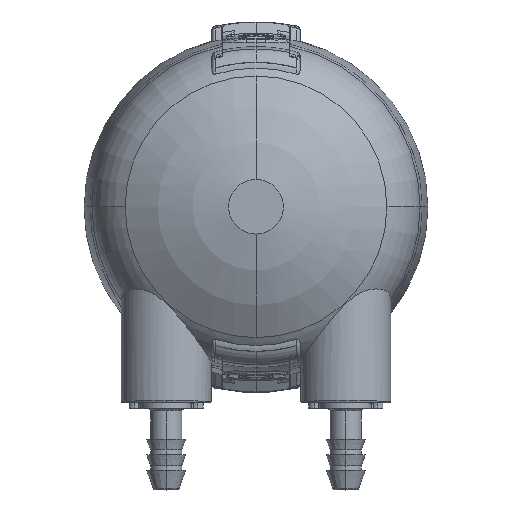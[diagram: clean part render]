
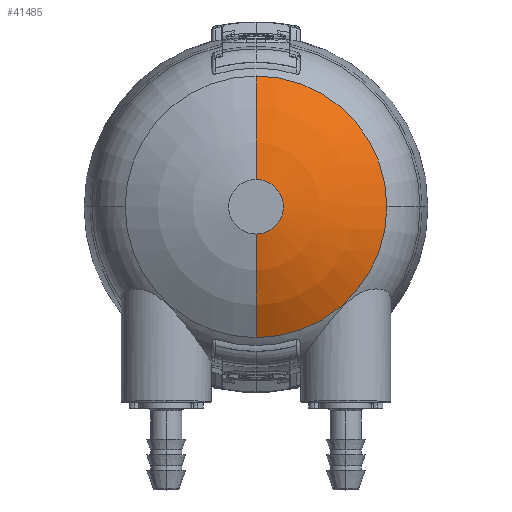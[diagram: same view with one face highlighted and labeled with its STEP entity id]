
A CAD part, top view. The second image highlights one B-rep face of the part: STEP entity #41485.
In plain terms, the highlighted spherical face has radius 61.112 mm.
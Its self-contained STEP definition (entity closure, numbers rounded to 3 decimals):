
#227 = CARTESIAN_POINT ( 'NONE',  ( 0., 0., 38. ) ) ;
#383 = CARTESIAN_POINT ( 'NONE',  ( 0., 0., -13.112 ) ) ;
#489 = DIRECTION ( 'NONE',  ( 0., 0., -1. ) ) ;
#2012 = CIRCLE ( 'NONE', #15556, 33.5 ) ;
#14881 = SPHERICAL_SURFACE ( 'NONE', #72997, 61.112 ) ;
#15556 = AXIS2_PLACEMENT_3D ( 'NONE', #227, #63929, #135825 ) ;
#15560 = DIRECTION ( 'NONE',  ( 0., 0., -1. ) ) ;
#20245 = VERTEX_POINT ( 'NONE', #124026 ) ;
#21852 = DIRECTION ( 'NONE',  ( 0., -1., 0. ) ) ;
#22204 = CARTESIAN_POINT ( 'NONE',  ( 33.5, 0., 38. ) ) ;
#22760 = DIRECTION ( 'NONE',  ( 1., 0., 0. ) ) ;
#24032 = EDGE_CURVE ( 'NONE', #117124, #123176, #2012, .T. ) ;
#27832 = EDGE_LOOP ( 'NONE', ( #61021, #128328, #81240, #38416, #89362, #105162 ) ) ;
#32246 = DIRECTION ( 'NONE',  ( -1., 0., 0. ) ) ;
#33671 = CIRCLE ( 'NONE', #99883, 7. ) ;
#36827 = VERTEX_POINT ( 'NONE', #101524 ) ;
#37146 = CARTESIAN_POINT ( 'NONE',  ( 0., 0., -13.112 ) ) ;
#37749 = CARTESIAN_POINT ( 'NONE',  ( 0., 0., -13.112 ) ) ;
#38416 = ORIENTED_EDGE ( 'NONE', *, *, #55633, .T. ) ;
#39547 = DIRECTION ( 'NONE',  ( -1., 0., 0. ) ) ;
#41485 = ADVANCED_FACE ( 'NONE', ( #84828 ), #14881, .T. ) ;
#42902 = DIRECTION ( 'NONE',  ( 0., 0., 1. ) ) ;
#43311 = CIRCLE ( 'NONE', #107337, 61.112 ) ;
#45022 = VERTEX_POINT ( 'NONE', #81982 ) ;
#51349 = EDGE_CURVE ( 'NONE', #36827, #45022, #43311, .T. ) ;
#52040 = AXIS2_PLACEMENT_3D ( 'NONE', #54532, #489, #86304 ) ;
#54532 = CARTESIAN_POINT ( 'NONE',  ( 0., 0., 47.598 ) ) ;
#55633 = EDGE_CURVE ( 'NONE', #123176, #20245, #129530, .T. ) ;
#60777 = AXIS2_PLACEMENT_3D ( 'NONE', #66381, #42902, #22760 ) ;
#61021 = ORIENTED_EDGE ( 'NONE', *, *, #51349, .F. ) ;
#62962 = CIRCLE ( 'NONE', #60777, 33.5 ) ;
#63929 = DIRECTION ( 'NONE',  ( 0., 0., 1. ) ) ;
#66381 = CARTESIAN_POINT ( 'NONE',  ( 0., 0., 38. ) ) ;
#66465 = EDGE_CURVE ( 'NONE', #68829, #45022, #33671, .T. ) ;
#68829 = VERTEX_POINT ( 'NONE', #88805 ) ;
#69540 = EDGE_CURVE ( 'NONE', #36827, #117124, #62962, .T. ) ;
#70408 = EDGE_CURVE ( 'NONE', #20245, #68829, #100568, .T. ) ;
#72997 = AXIS2_PLACEMENT_3D ( 'NONE', #37749, #15560, #90272 ) ;
#81240 = ORIENTED_EDGE ( 'NONE', *, *, #24032, .T. ) ;
#81982 = CARTESIAN_POINT ( 'NONE',  ( 0., -7., 47.598 ) ) ;
#84828 = FACE_OUTER_BOUND ( 'NONE', #27832, .T. ) ;
#86304 = DIRECTION ( 'NONE',  ( -1., 0., 0. ) ) ;
#86474 = CARTESIAN_POINT ( 'NONE',  ( 0., 33.5, 38. ) ) ;
#88805 = CARTESIAN_POINT ( 'NONE',  ( 7., 0., 47.598 ) ) ;
#89362 = ORIENTED_EDGE ( 'NONE', *, *, #70408, .T. ) ;
#90272 = DIRECTION ( 'NONE',  ( 0., 1., 0. ) ) ;
#92076 = CARTESIAN_POINT ( 'NONE',  ( 0., 0., 47.598 ) ) ;
#99883 = AXIS2_PLACEMENT_3D ( 'NONE', #92076, #134242, #39547 ) ;
#100568 = CIRCLE ( 'NONE', #52040, 7. ) ;
#101524 = CARTESIAN_POINT ( 'NONE',  ( 0., -33.5, 38. ) ) ;
#105162 = ORIENTED_EDGE ( 'NONE', *, *, #66465, .T. ) ;
#107337 = AXIS2_PLACEMENT_3D ( 'NONE', #383, #32246, #21852 ) ;
#116302 = AXIS2_PLACEMENT_3D ( 'NONE', #37146, #131817, #121419 ) ;
#117124 = VERTEX_POINT ( 'NONE', #22204 ) ;
#121419 = DIRECTION ( 'NONE',  ( 0., 0., -1. ) ) ;
#123176 = VERTEX_POINT ( 'NONE', #86474 ) ;
#124026 = CARTESIAN_POINT ( 'NONE',  ( 0., 7., 47.598 ) ) ;
#128328 = ORIENTED_EDGE ( 'NONE', *, *, #69540, .T. ) ;
#129530 = CIRCLE ( 'NONE', #116302, 61.113 ) ;
#131817 = DIRECTION ( 'NONE',  ( 1., 0., 0. ) ) ;
#134242 = DIRECTION ( 'NONE',  ( 0., 0., -1. ) ) ;
#135825 = DIRECTION ( 'NONE',  ( 1., 0., 0. ) ) ;
